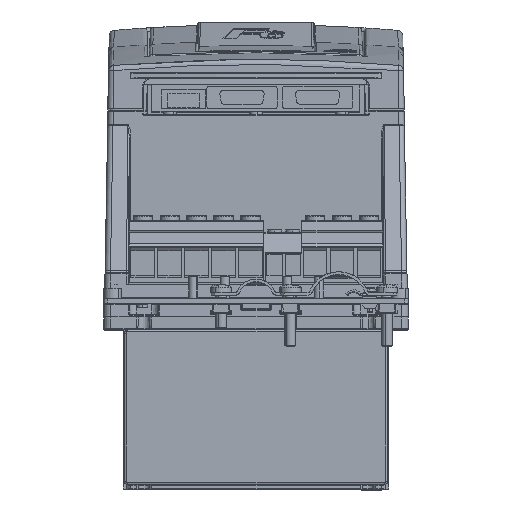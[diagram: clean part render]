
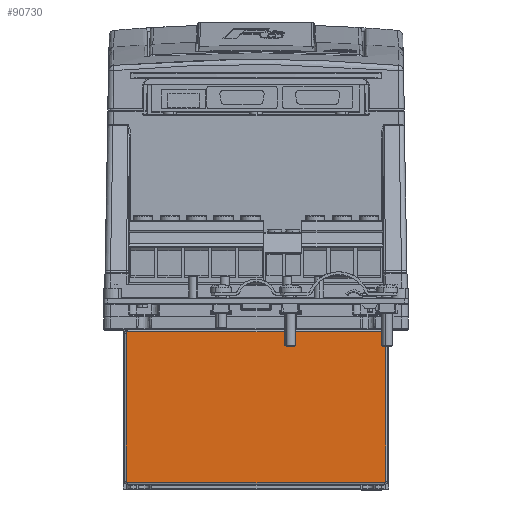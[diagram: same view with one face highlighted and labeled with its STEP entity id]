
A CAD part, top view. The second image highlights one B-rep face of the part: STEP entity #90730.
In plain terms, the highlighted planar face has unit normal (0, 0, 1).
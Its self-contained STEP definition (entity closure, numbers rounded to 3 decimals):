
#810 = ORIENTED_EDGE ( 'NONE', *, *, #44241, .T. ) ;
#6736 = LINE ( 'NONE', #69966, #102623 ) ;
#7360 = CIRCLE ( 'NONE', #35372, 1. ) ;
#9446 = EDGE_CURVE ( 'NONE', #37058, #44546, #6736, .T. ) ;
#12217 = DIRECTION ( 'NONE',  ( 0., 0., 1. ) ) ;
#14653 = VERTEX_POINT ( 'NONE', #111954 ) ;
#16294 = ORIENTED_EDGE ( 'NONE', *, *, #104324, .T. ) ;
#16711 = ORIENTED_EDGE ( 'NONE', *, *, #111682, .T. ) ;
#21331 = ORIENTED_EDGE ( 'NONE', *, *, #33561, .T. ) ;
#21366 = VERTEX_POINT ( 'NONE', #31737 ) ;
#24620 = EDGE_CURVE ( 'NONE', #53002, #57149, #78684, .T. ) ;
#28162 = AXIS2_PLACEMENT_3D ( 'NONE', #76438, #112013, #31955 ) ;
#28591 = EDGE_CURVE ( 'NONE', #99047, #53002, #66847, .T. ) ;
#29124 = DIRECTION ( 'NONE',  ( 0., 1., 0. ) ) ;
#31381 = ORIENTED_EDGE ( 'NONE', *, *, #9446, .T. ) ;
#31737 = CARTESIAN_POINT ( 'NONE',  ( 72.5, -87.15, 60. ) ) ;
#31955 = DIRECTION ( 'NONE',  ( 1., 0., 0. ) ) ;
#33561 = EDGE_CURVE ( 'NONE', #57149, #83656, #98506, .T. ) ;
#34565 = ORIENTED_EDGE ( 'NONE', *, *, #24620, .T. ) ;
#34830 = VECTOR ( 'NONE', #29124, 1000. ) ;
#35188 = DIRECTION ( 'NONE',  ( 1., 0., 0. ) ) ;
#35372 = AXIS2_PLACEMENT_3D ( 'NONE', #55716, #64502, #98408 ) ;
#37058 = VERTEX_POINT ( 'NONE', #97803 ) ;
#37690 = EDGE_LOOP ( 'NONE', ( #16294, #90469, #31381, #16711, #105733, #34565, #21331, #810 ) ) ;
#39652 = CARTESIAN_POINT ( 'NONE',  ( -72.5, -87.15, 60. ) ) ;
#41828 = DIRECTION ( 'NONE',  ( 0., 0., 1. ) ) ;
#44241 = EDGE_CURVE ( 'NONE', #83656, #21366, #7360, .T. ) ;
#44546 = VERTEX_POINT ( 'NONE', #53852 ) ;
#47123 = FACE_OUTER_BOUND ( 'NONE', #37690, .T. ) ;
#47973 = DIRECTION ( 'NONE',  ( 1., 0., 0. ) ) ;
#49258 = AXIS2_PLACEMENT_3D ( 'NONE', #74060, #41828, #102662 ) ;
#53002 = VERTEX_POINT ( 'NONE', #39652 ) ;
#53852 = CARTESIAN_POINT ( 'NONE',  ( -71.5, -3.65, 60. ) ) ;
#55716 = CARTESIAN_POINT ( 'NONE',  ( 71.5, -87.15, 60. ) ) ;
#56419 = CIRCLE ( 'NONE', #90053, 1. ) ;
#57149 = VERTEX_POINT ( 'NONE', #90843 ) ;
#60396 = CIRCLE ( 'NONE', #67890, 1. ) ;
#64502 = DIRECTION ( 'NONE',  ( 0., 0., 1. ) ) ;
#66152 = CARTESIAN_POINT ( 'NONE',  ( -72.5, -4.65, 60. ) ) ;
#66847 = LINE ( 'NONE', #75015, #80459 ) ;
#67890 = AXIS2_PLACEMENT_3D ( 'NONE', #92374, #12217, #47973 ) ;
#69966 = CARTESIAN_POINT ( 'NONE',  ( 0., -3.65, 60. ) ) ;
#73041 = LINE ( 'NONE', #108651, #34830 ) ;
#74060 = CARTESIAN_POINT ( 'NONE',  ( 0., -45.9, 60. ) ) ;
#75015 = CARTESIAN_POINT ( 'NONE',  ( -72.5, -45.9, 60. ) ) ;
#76438 = CARTESIAN_POINT ( 'NONE',  ( -71.5, -87.15, 60. ) ) ;
#78684 = CIRCLE ( 'NONE', #28162, 1. ) ;
#80459 = VECTOR ( 'NONE', #94236, 1000. ) ;
#81026 = DIRECTION ( 'NONE',  ( 1., 0., 0. ) ) ;
#82844 = PLANE ( 'NONE',  #49258 ) ;
#83656 = VERTEX_POINT ( 'NONE', #96662 ) ;
#90053 = AXIS2_PLACEMENT_3D ( 'NONE', #104182, #113512, #35188 ) ;
#90469 = ORIENTED_EDGE ( 'NONE', *, *, #113115, .T. ) ;
#90730 = ADVANCED_FACE ( 'NONE', ( #47123 ), #82844, .T. ) ;
#90843 = CARTESIAN_POINT ( 'NONE',  ( -71.5, -88.15, 60. ) ) ;
#92374 = CARTESIAN_POINT ( 'NONE',  ( 71.5, -4.65, 60. ) ) ;
#94236 = DIRECTION ( 'NONE',  ( 0., -1., 0. ) ) ;
#96662 = CARTESIAN_POINT ( 'NONE',  ( 71.5, -88.15, 60. ) ) ;
#96821 = DIRECTION ( 'NONE',  ( -1., 0., 0. ) ) ;
#97803 = CARTESIAN_POINT ( 'NONE',  ( 71.5, -3.65, 60. ) ) ;
#98408 = DIRECTION ( 'NONE',  ( 1., 0., 0. ) ) ;
#98506 = LINE ( 'NONE', #99079, #107497 ) ;
#99047 = VERTEX_POINT ( 'NONE', #66152 ) ;
#99079 = CARTESIAN_POINT ( 'NONE',  ( 0., -88.15, 60. ) ) ;
#102623 = VECTOR ( 'NONE', #96821, 1000. ) ;
#102662 = DIRECTION ( 'NONE',  ( 1., 0., 0. ) ) ;
#104182 = CARTESIAN_POINT ( 'NONE',  ( -71.5, -4.65, 60. ) ) ;
#104324 = EDGE_CURVE ( 'NONE', #21366, #14653, #73041, .T. ) ;
#105733 = ORIENTED_EDGE ( 'NONE', *, *, #28591, .T. ) ;
#107497 = VECTOR ( 'NONE', #81026, 1000. ) ;
#108651 = CARTESIAN_POINT ( 'NONE',  ( 72.5, -45.9, 60. ) ) ;
#111682 = EDGE_CURVE ( 'NONE', #44546, #99047, #56419, .T. ) ;
#111954 = CARTESIAN_POINT ( 'NONE',  ( 72.5, -4.65, 60. ) ) ;
#112013 = DIRECTION ( 'NONE',  ( 0., 0., 1. ) ) ;
#113115 = EDGE_CURVE ( 'NONE', #14653, #37058, #60396, .T. ) ;
#113512 = DIRECTION ( 'NONE',  ( 0., 0., 1. ) ) ;
